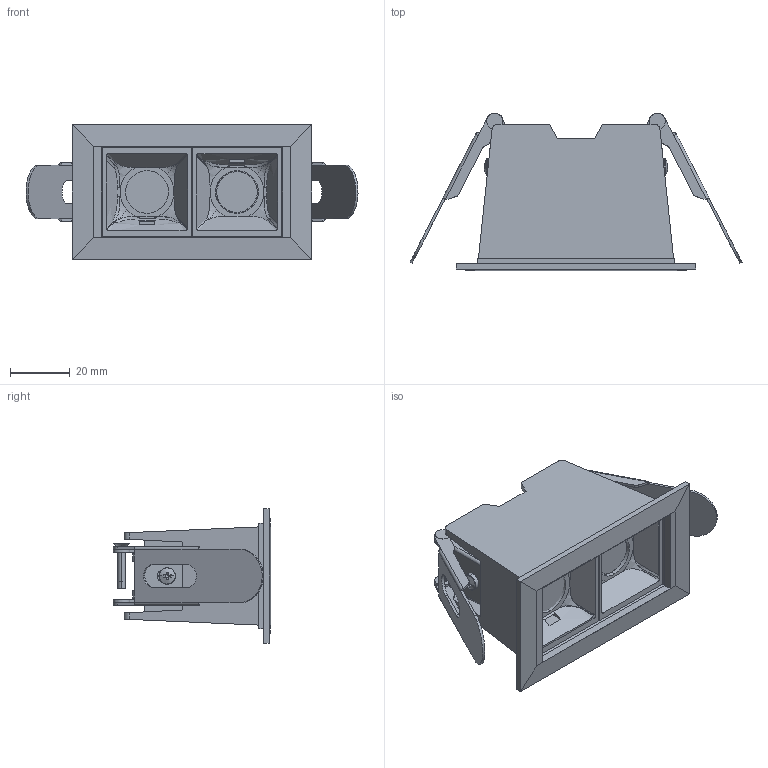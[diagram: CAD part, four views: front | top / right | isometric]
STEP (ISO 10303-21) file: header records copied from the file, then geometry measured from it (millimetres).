
FILE_DESCRIPTION(/* description */ (''),/* implementation_level */ '2;1');
FILE_NAME(/* name */ 'XR178.007',/* time_stamp */ '2024-09-03T09:37:38+02:00',/* author */ (''),/* organization */ (''),/* preprocessor_version */ 'ST-DEVELOPER v16.5',/* originating_system */ '',/* authorisation */ '');
FILE_SCHEMA (('AUTOMOTIVE_DESIGN'));
Length unit declared in the file: millimetre
Products named in the file (1): Document
Bounding box: 110.88 x 52.65 x 45 mm (x, y, z)
Volume: 33255.9 mm3; surface area: 37507.6 mm2
Topology: 15 solids, 23 shells, 749 faces, 1981 edges, 1250 vertices
Faces by surface type: plane 414, bspline 335
Entity records: 38305 total; most frequent: CARTESIAN_POINT 26236, ORIENTED_EDGE 3816, EDGE_CURVE 1956, B_SPLINE_CURVE_WITH_KNOTS 1334, VERTEX_POINT 1250, EDGE_LOOP 806, ADVANCED_FACE 749, FACE_OUTER_BOUND 749
